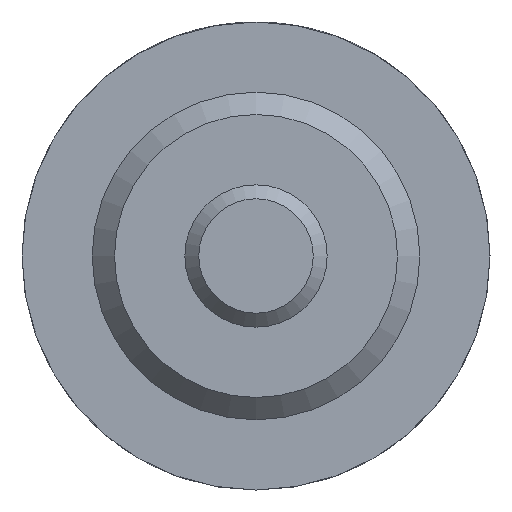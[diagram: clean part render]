
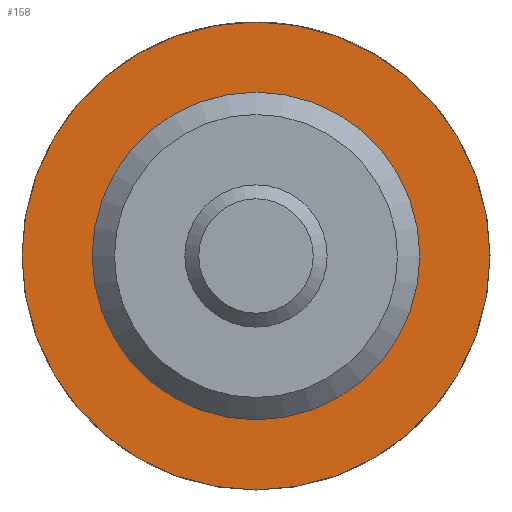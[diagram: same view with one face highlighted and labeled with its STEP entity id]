
A CAD part, left-side view. The second image highlights one B-rep face of the part: STEP entity #158.
In plain terms, the highlighted planar face has unit normal (-1, 0, 0).
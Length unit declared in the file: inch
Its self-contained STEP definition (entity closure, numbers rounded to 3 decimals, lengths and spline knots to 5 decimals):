
#158 = ADVANCED_FACE( '', ( #324, #325 ), #326, .F. );
#324 = FACE_OUTER_BOUND( '', #500, .T. );
#325 = FACE_BOUND( '', #501, .T. );
#326 = PLANE( '', #502 );
#500 = EDGE_LOOP( '', ( #733 ) );
#501 = EDGE_LOOP( '', ( #734 ) );
#502 = AXIS2_PLACEMENT_3D( '', #735, #736, #737 );
#733 = ORIENTED_EDGE( '', *, *, #917, .F. );
#734 = ORIENTED_EDGE( '', *, *, #855, .T. );
#735 = CARTESIAN_POINT( '', ( 0.375, 0.2185, 0. ) );
#736 = DIRECTION( '', ( 1., 0., 0. ) );
#737 = DIRECTION( '', ( 0., 0., -1. ) );
#855 = EDGE_CURVE( '', #958, #958, #959, .T. );
#917 = EDGE_CURVE( '', #1056, #1056, #1057, .T. );
#958 = VERTEX_POINT( '', #1101 );
#959 = CIRCLE( '', #1102, 0.2185 );
#1056 = VERTEX_POINT( '', #1349 );
#1057 = CIRCLE( '', #1350, 0.3125 );
#1101 = CARTESIAN_POINT( '', ( 0.375, 0., -0.2185 ) );
#1102 = AXIS2_PLACEMENT_3D( '', #1395, #1396, #1397 );
#1349 = CARTESIAN_POINT( '', ( 0.375, 0., -0.3125 ) );
#1350 = AXIS2_PLACEMENT_3D( '', #1488, #1489, #1490 );
#1395 = CARTESIAN_POINT( '', ( 0.375, 0., 0. ) );
#1396 = DIRECTION( '', ( 1., 0., 0. ) );
#1397 = DIRECTION( '', ( 0., 0., -1. ) );
#1488 = CARTESIAN_POINT( '', ( 0.375, 0., 0. ) );
#1489 = DIRECTION( '', ( 1., 0., 0. ) );
#1490 = DIRECTION( '', ( 0., 0., -1. ) );
